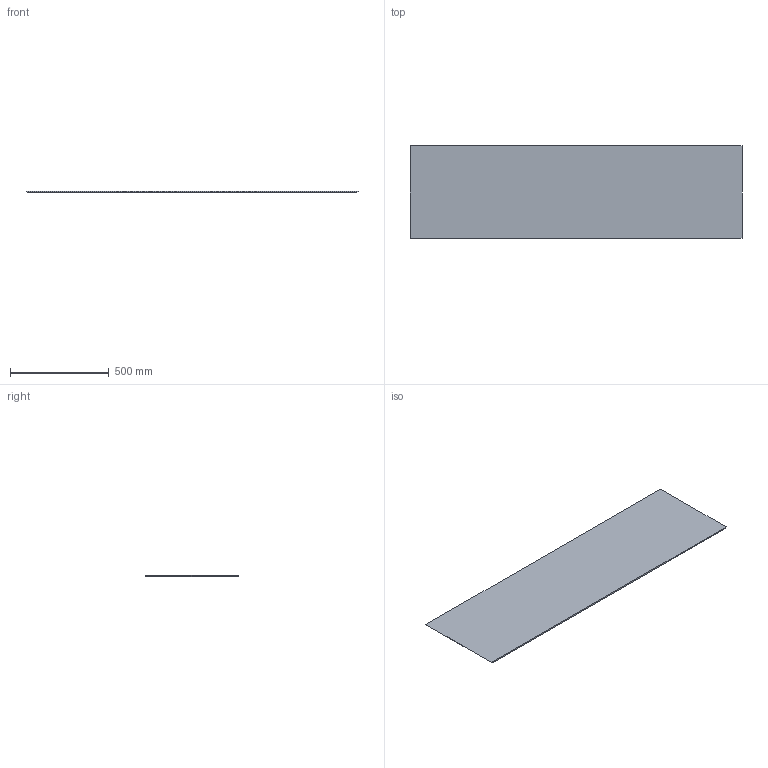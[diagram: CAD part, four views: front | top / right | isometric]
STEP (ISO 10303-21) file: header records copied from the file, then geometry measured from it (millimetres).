
FILE_DESCRIPTION(('Open CASCADE Model'),'2;1');
FILE_NAME('Open CASCADE Shape Model','2026-10-19T10:09:19',('Author'),( 'Open CASCADE'),'Open CASCADE STEP processor 8.0','Open CASCADE 8.0' ,'Unknown');
FILE_SCHEMA(('AUTOMOTIVE_DESIGN { 1 0 10303 214 1 1 1 1 }'));
Length unit declared in the file: millimetre
Products named in the file (1): TOL_PANEL_CUERPO_DN150_6mm_P05 19
Bounding box: 1682 x 470.15 x 6 mm (x, y, z)
Volume: 4727874.1 mm3; surface area: 1604048.8 mm2
Topology: 1 solids, 1 shells, 6 faces, 12 edges, 8 vertices
Faces by surface type: plane 6
Entity records: 322 total; most frequent: CARTESIAN_POINT 51, DIRECTION 50, LINE 36, VECTOR 36, ORIENTED_EDGE 24, PCURVE 24, DEFINITIONAL_REPRESENTATION 24, EDGE_CURVE 12
